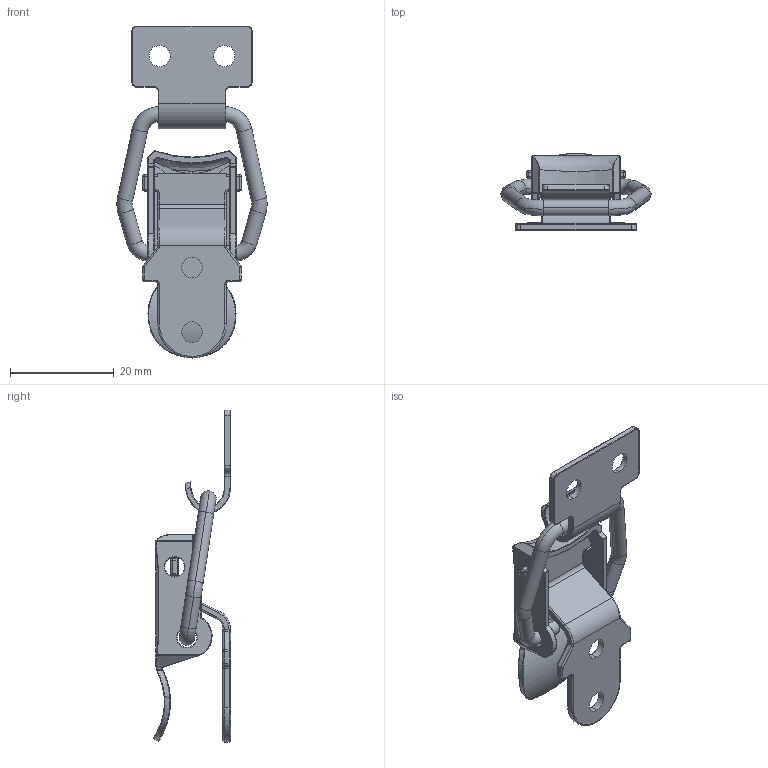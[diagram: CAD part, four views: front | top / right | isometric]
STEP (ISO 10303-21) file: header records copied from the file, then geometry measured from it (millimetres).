
FILE_DESCRIPTION (( 'STEP AP214' ), '1' );
FILE_NAME ('KC-1813.STEP', '2022-01-19T15:10:02', ( '' ), ( '' ), 'SwSTEP 2.0', 'SolidWorks 2020', '' );
FILE_SCHEMA (( 'AUTOMOTIVE_DESIGN' ));
Length unit declared in the file: millimetre
Products named in the file (1): KC-1813
Bounding box: 29.03 x 14.91 x 64.13 mm (x, y, z)
Volume: 3195.7 mm3; surface area: 5418.3 mm2
Topology: 4 solids, 4 shells, 476 faces, 1129 edges, 641 vertices
Faces by surface type: cylinder 194, torus 93, plane 69, bspline 66, sphere 30, cone 24
Entity records: 15550 total; most frequent: CARTESIAN_POINT 4882, DIRECTION 2317, ORIENTED_EDGE 2218, EDGE_CURVE 1109, AXIS2_PLACEMENT_3D 970, VERTEX_POINT 641, CIRCLE 559, EDGE_LOOP 492
